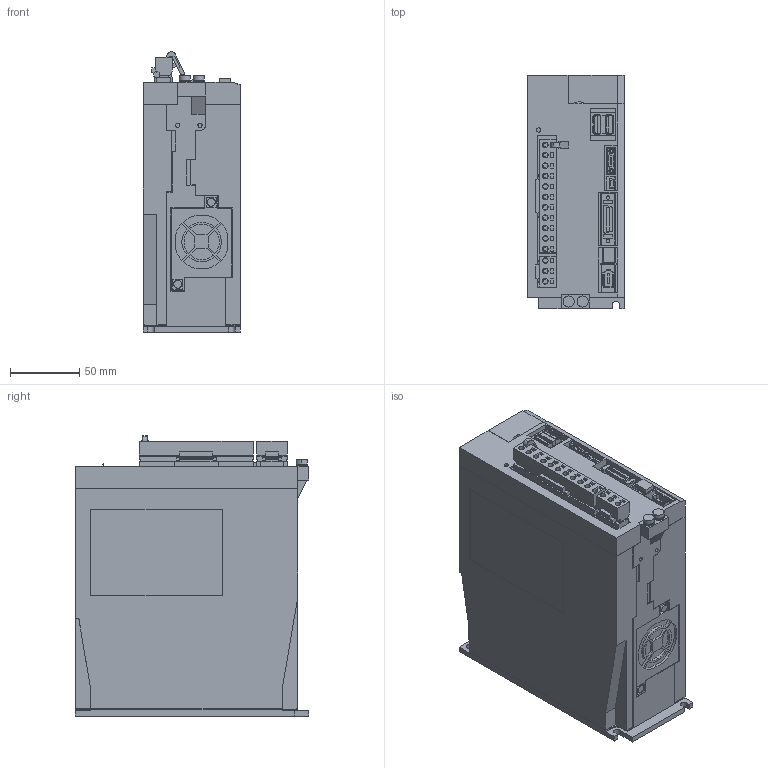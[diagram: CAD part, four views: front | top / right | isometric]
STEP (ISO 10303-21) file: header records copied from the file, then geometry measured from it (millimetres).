
FILE_DESCRIPTION (( 'STEP AP203' ), '1' );
FILE_NAME ('sgd7s_2r8f10a.STEP', '2016-12-09T00:10:45', ( '匠エンジニアリング山之内' ), ( 'TAKUMI-Engniaring' ), 'SwSTEP 2.0', 'SolidWorks 2006303', '' );
FILE_SCHEMA (( 'CONFIG_CONTROL_DESIGN' ));
Length unit declared in the file: millimetre
Products named in the file (9): sgd7s_2r8f10a; sgd7s_2r8f10a_connector_1; sgd7s_2r8f10a_cover; sgd7s_2r8f10a_base; sgd7s_2r8f10a_connector; sgd7s_2r8f10a_connector_2; sgd7s_2r8f10a_pin; sgd7s_2r8f10a_cover2; sgd7s_2r8f10a_connector_3
Assembly tree (9 placements, depth 3):
  sgd7s_2r8f10a
    sgd7s_2r8f10a_connector_1
    sgd7s_2r8f10a_connector_3
    sgd7s_2r8f10a_cover
    sgd7s_2r8f10a_base
    sgd7s_2r8f10a_cover2  x2
    sgd7s_2r8f10a_connector
      sgd7s_2r8f10a_connector_2
      sgd7s_2r8f10a_pin
Bounding box: 70.5 x 168 x 201.83 mm (x, y, z)
Volume: 1988032.6 mm3; surface area: 149484.6 mm2
Topology: 8 solids, 8 shells, 1751 faces, 4574 edges, 3016 vertices
Faces by surface type: plane 1553, cylinder 193, cone 4, sphere 1
Entity records: 53230 total; most frequent: CARTESIAN_POINT 9243, ORIENTED_EDGE 9040, DIRECTION 8405, EDGE_CURVE 4520, VECTOR 4121, LINE 4121, VERTEX_POINT 2980, AXIS2_PLACEMENT_3D 2142
